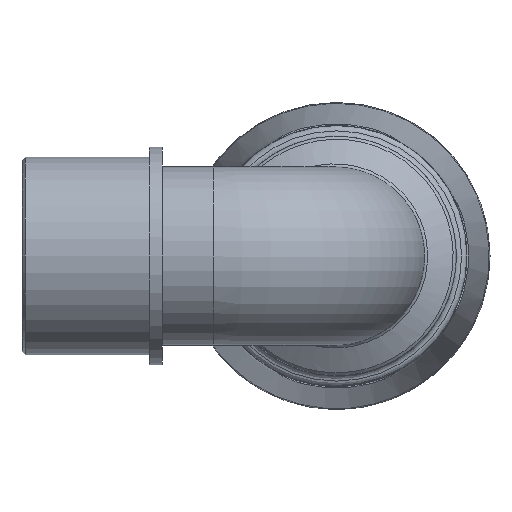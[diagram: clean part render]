
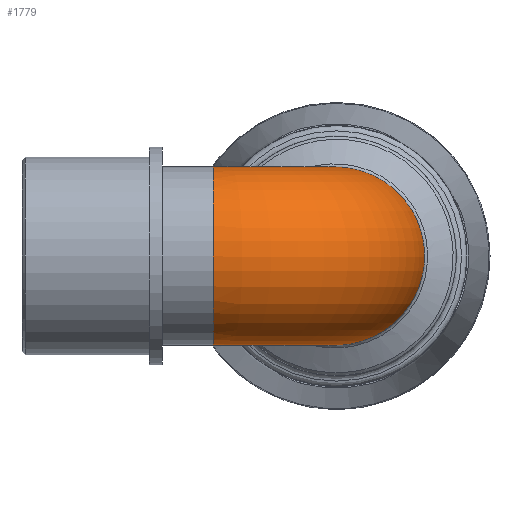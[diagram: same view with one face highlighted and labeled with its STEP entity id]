
A CAD part, left-side view. The second image highlights one B-rep face of the part: STEP entity #1779.
In plain terms, the highlighted toroidal (fillet/blend) face has major radius 16.468 mm and minor radius 11.899 mm.
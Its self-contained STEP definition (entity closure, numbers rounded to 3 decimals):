
#80=TOROIDAL_SURFACE('',#1905,16.468,11.898);
#90=FACE_BOUND('',#432,.T.);
#315=FACE_OUTER_BOUND('',#431,.T.);
#431=EDGE_LOOP('',(#1185));
#432=EDGE_LOOP('',(#1186));
#549=B_SPLINE_CURVE_WITH_KNOTS('',3,(#2692,#2693,#2694,#2695,#2696,#2697,
#2698,#2699,#2700,#2701,#2702,#2703,#2704,#2705,#2706,#2707,#2708,#2709),
 .UNSPECIFIED.,.T.,.F.,(4,1,1,1,1,1,1,1,1,1,1,1,1,1,1,4),(-3.142,
-2.693,-2.244,-1.795,-1.346,
-0.748,-0.449,0.15,0.449,
0.898,1.346,1.795,2.244,2.693,
2.917,3.142),.UNSPECIFIED.);
#638=CIRCLE('',#1900,11.898);
#724=VERTEX_POINT('',#2690);
#746=VERTEX_POINT('',#2986);
#892=EDGE_CURVE('',#724,#724,#549,.T.);
#917=EDGE_CURVE('',#746,#746,#638,.T.);
#1185=ORIENTED_EDGE('',*,*,#892,.F.);
#1186=ORIENTED_EDGE('',*,*,#917,.T.);
#1779=ADVANCED_FACE('',(#315,#90),#80,.T.);
#1900=AXIS2_PLACEMENT_3D('',#2987,#2126,#2127);
#1905=AXIS2_PLACEMENT_3D('',#2995,#2136,#2137);
#2126=DIRECTION('center_axis',(0.,-1.,0.));
#2127=DIRECTION('ref_axis',(-1.,0.,0.));
#2136=DIRECTION('center_axis',(0.,0.,1.));
#2137=DIRECTION('ref_axis',(1.,0.,0.));
#2690=CARTESIAN_POINT('',(13.375,13.104,0.));
#2692=CARTESIAN_POINT('Ctrl Pts',(13.375,13.106,0.002));
#2693=CARTESIAN_POINT('Ctrl Pts',(13.375,13.105,1.803));
#2694=CARTESIAN_POINT('Ctrl Pts',(13.39,11.921,5.368));
#2695=CARTESIAN_POINT('Ctrl Pts',(13.49,8.213,9.542));
#2696=CARTESIAN_POINT('Ctrl Pts',(13.556,3.209,11.951));
#2697=CARTESIAN_POINT('Ctrl Pts',(13.6,-2.977,12.054));
#2698=CARTESIAN_POINT('Ctrl Pts',(13.618,-7.919,9.308));
#2699=CARTESIAN_POINT('Ctrl Pts',(13.629,-11.41,4.307));
#2700=CARTESIAN_POINT('Ctrl Pts',(13.63,-12.173,-0.661));
#2701=CARTESIAN_POINT('Ctrl Pts',(13.626,-10.522,-5.891));
#2702=CARTESIAN_POINT('Ctrl Pts',(13.616,-7.401,-9.713));
#2703=CARTESIAN_POINT('Ctrl Pts',(13.595,-2.352,-12.039));
#2704=CARTESIAN_POINT('Ctrl Pts',(13.556,3.205,-11.951));
#2705=CARTESIAN_POINT('Ctrl Pts',(13.489,8.216,-9.546));
#2706=CARTESIAN_POINT('Ctrl Pts',(13.408,11.301,-6.053));
#2707=CARTESIAN_POINT('Ctrl Pts',(13.377,12.812,-2.709));
#2708=CARTESIAN_POINT('Ctrl Pts',(13.374,13.106,-0.898));
#2709=CARTESIAN_POINT('Ctrl Pts',(13.375,13.106,0.002));
#2986=CARTESIAN_POINT('',(11.898,16.468,0.));
#2987=CARTESIAN_POINT('Origin',(0.,16.468,0.));
#2995=CARTESIAN_POINT('Origin',(16.468,16.468,0.));
